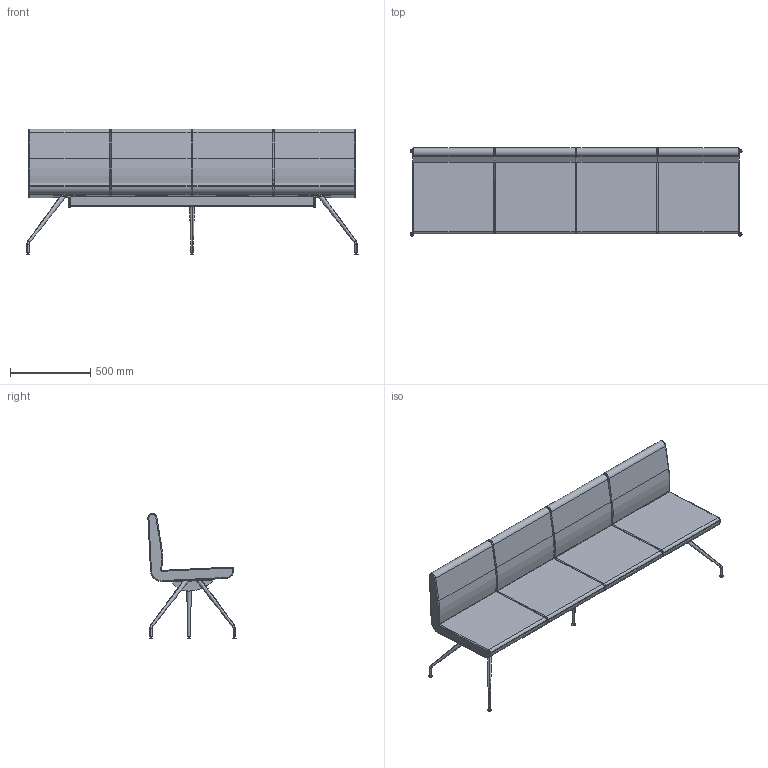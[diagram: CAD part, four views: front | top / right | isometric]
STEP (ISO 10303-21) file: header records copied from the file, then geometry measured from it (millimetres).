
FILE_DESCRIPTION(/* description */ (''),/* implementation_level */ '2;1');
FILE_NAME(/* name */ 'DELTA4~2',/* time_stamp */ '2016-06-16T16:31:16+02:00',/* author */ (''),/* organization */ (''),/* preprocessor_version */ 'ST-DEVELOPER v15',/* originating_system */ '',/* authorisation */ '');
FILE_SCHEMA (('CONFIG_CONTROL_DESIGN'));
Length unit declared in the file: millimetre
Products named in the file (1): Document
Bounding box: 2074 x 550.97 x 785.18 mm (x, y, z)
Volume: 122869100.4 mm3; surface area: 5087714.4 mm2
Topology: 10 solids, 21 shells, 280 faces, 629 edges, 382 vertices
Faces by surface type: bspline 238, plane 42
Entity records: 9392 total; most frequent: CARTESIAN_POINT 5970, ORIENTED_EDGE 1206, EDGE_CURVE 626, VERTEX_POINT 376, EDGE_LOOP 285, ADVANCED_FACE 280, FACE_OUTER_BOUND 280, B_SPLINE_CURVE_WITH_KNOTS 87
